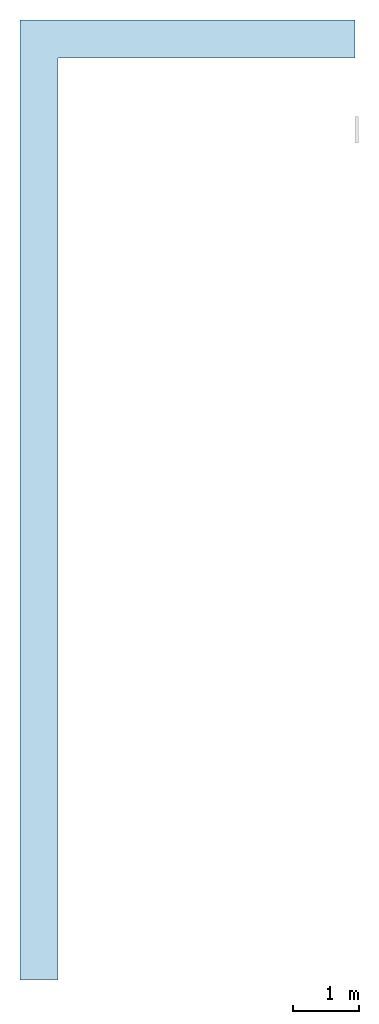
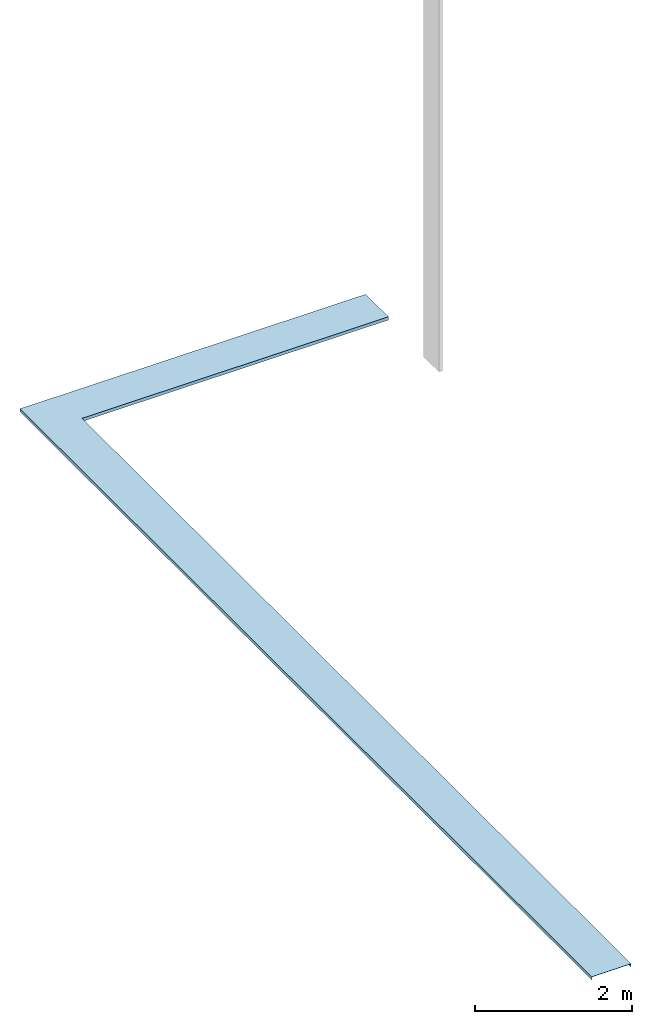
# One storey, part 1 of 2: 1 roof.
"""IFC2X3 building model written with IfcOpenShell, lengths in centimetres."""

from ifc_helpers import new_model, entity, si_unit, converted_unit, derived_unit, direction, frame, origin, place, context, subcontext, project, spatial, faceted_brep, material, element, save


model = new_model("IFC2X3")

# Units and contexts
model_context = context("Model", 3, precision=0.001, world=origin(), true_north=direction((6.12303176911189e-17, 1.0)))
body_context = subcontext(model_context, "Body", "Model", "MODEL_VIEW")
ifc_project = project(units=[si_unit("LENGTHUNIT", "METRE", prefix="CENTI"), si_unit("AREAUNIT", "SQUARE_METRE"), si_unit("VOLUMEUNIT", "CUBIC_METRE"), converted_unit("PLANEANGLEUNIT", "DEGREE", entity("IfcRatioMeasure", 0.0174532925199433), si_unit("PLANEANGLEUNIT", "RADIAN"), dimensions=[0, 0, 0, 0, 0, 0, 0]), si_unit("MASSUNIT", "GRAM", prefix="KILO"), derived_unit("MASSDENSITYUNIT", [(si_unit("MASSUNIT", "GRAM", prefix="KILO"), 1), (si_unit("LENGTHUNIT", "METRE"), -3)]), si_unit("TIMEUNIT", "SECOND"), si_unit("FREQUENCYUNIT", "HERTZ"), si_unit("THERMODYNAMICTEMPERATUREUNIT", "DEGREE_CELSIUS"), derived_unit("THERMALTRANSMITTANCEUNIT", [(si_unit("MASSUNIT", "GRAM", prefix="KILO"), 1), (si_unit("THERMODYNAMICTEMPERATUREUNIT", "KELVIN"), -1), (si_unit("TIMEUNIT", "SECOND"), -3)]), derived_unit("VOLUMETRICFLOWRATEUNIT", [(si_unit("LENGTHUNIT", "METRE"), 3), (si_unit("TIMEUNIT", "SECOND"), -1)]), si_unit("ELECTRICCURRENTUNIT", "AMPERE"), si_unit("ELECTRICVOLTAGEUNIT", "VOLT"), si_unit("POWERUNIT", "WATT"), si_unit("FORCEUNIT", "NEWTON", prefix="KILO"), si_unit("ILLUMINANCEUNIT", "LUX"), si_unit("LUMINOUSFLUXUNIT", "LUMEN"), si_unit("LUMINOUSINTENSITYUNIT", "CANDELA"), derived_unit("USERDEFINED", [(si_unit("MASSUNIT", "GRAM", prefix="KILO"), -1), (si_unit("LENGTHUNIT", "METRE"), -2), (si_unit("TIMEUNIT", "SECOND"), 3), (si_unit("LUMINOUSFLUXUNIT", "LUMEN"), 1)]), derived_unit("LINEARVELOCITYUNIT", [(si_unit("LENGTHUNIT", "METRE"), 1), (si_unit("TIMEUNIT", "SECOND"), -1)]), si_unit("PRESSUREUNIT", "PASCAL"), derived_unit("USERDEFINED", [(si_unit("LENGTHUNIT", "METRE"), -2), (si_unit("MASSUNIT", "GRAM", prefix="KILO"), 1), (si_unit("TIMEUNIT", "SECOND"), -2)])], contexts=[model_context])

# Site, building, storey
site_placement = place(None, frame((-2781.94577612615, 7442.24238424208, 0.0)))
site = spatial("IfcSite", under=ifc_project, at=site_placement, Name="Default", CompositionType="ELEMENT")
building_placement = place(site_placement, origin())
building = spatial("IfcBuilding", under=site, at=building_placement, CompositionType="ELEMENT")
storey_placement = place(building_placement, frame((0.0, 0.0, 375.0)))
storey = spatial("IfcBuildingStorey", under=building, at=storey_placement, Name="TR - Cuisine/préau", CompositionType="ELEMENT", Elevation=374.999999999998)

# Roof
ifc_material = material(Name="Aluminium")
roof_placement = place(storey_placement, frame((-8938.93218005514, -3352.52180651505, -5.0)))
element("IfcRoof", 1, at=roof_placement, inside=storey, material=ifc_material, Name="Couvertine self/preau:Couvertine self/preau", ObjectType="Couvertine self/preau:Couvertine self/preau", ShapeType="NOTDEFINED", context=body_context, shape_type="Brep", body=[
    faceted_brep([(509.432302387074, 1401.9427728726, 0.0), (509.432302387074, 1401.9427728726, 4.50000000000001), (509.432302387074, 1458.9427728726, 4.50000000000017), (509.432302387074, 1458.9427728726, 0.0), (509.432302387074, 1459.4427728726, 0.0), (509.432302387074, 1459.4427728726, 5.0), (509.432302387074, 1401.4427728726, 5.0), (509.432302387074, 1401.4427728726, 0.0), (57.5000000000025, 1401.9427728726, 0.0), (57.5000000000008, 1401.9427728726, 4.50000000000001), (57.5000000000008, 0.0, 4.49999999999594), (0.499999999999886, 0.0, 4.50000000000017), (0.499999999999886, 1458.9427728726, 4.50000000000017), (0.499999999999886, 1458.9427728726, 0.0), (0.499999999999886, 0.0, 0.0), (0.0, 0.0, 0.0), (0.0, 1459.4427728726, 0.0), (0.0, 1459.4427728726, 5.0), (0.0, 0.0, 5.0), (58.0, 0.0, 5.0), (58.0, 1401.4427728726, 5.0), (58.0, 1401.4427728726, 0.0), (58.0, 0.0, 0.0), (57.5000000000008, 0.0, 0.0)], [[[0, 1, 2, 3, 4, 5, 6, 7]], [[1, 0, 8, 9]], [[2, 1, 9, 10, 11, 12]], [[3, 2, 12, 13]], [[4, 3, 13, 14, 15, 16]], [[5, 4, 16, 17]], [[6, 5, 17, 18, 19, 20]], [[7, 6, 20, 21]], [[0, 7, 21, 22, 23, 8]], [[23, 22, 19, 18, 15, 14, 11, 10]], [[9, 8, 23, 10]], [[13, 12, 11, 14]], [[17, 16, 15, 18]], [[21, 20, 19, 22]]]),
])

save(model, "model.ifc")
